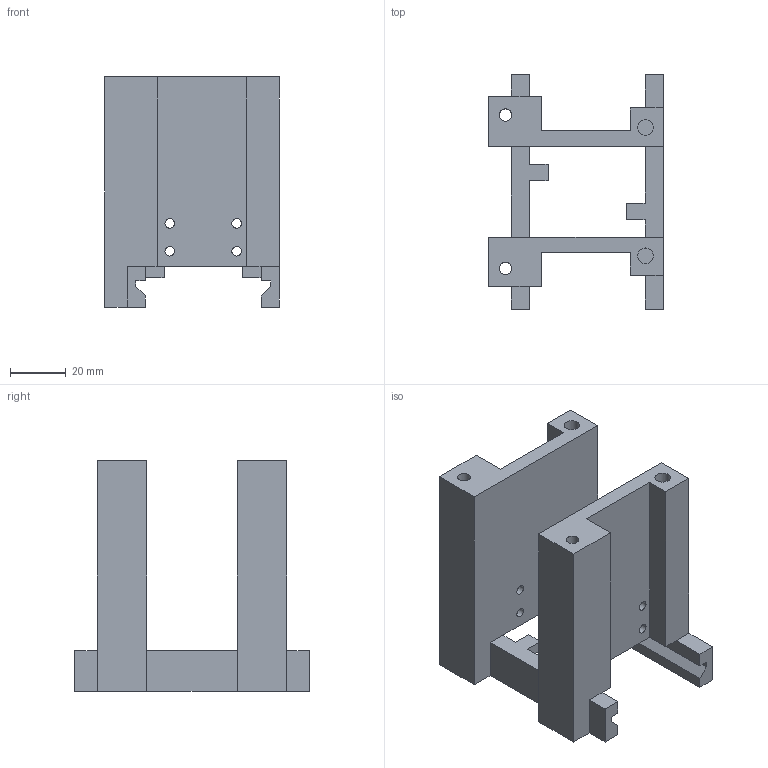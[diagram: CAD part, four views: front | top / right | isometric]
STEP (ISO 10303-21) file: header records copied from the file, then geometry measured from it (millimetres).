
FILE_DESCRIPTION(('Open CASCADE Model'),'2;1');
FILE_NAME('Open CASCADE Shape Model','2026-10-16T05:11:25',('Author'),( 'Open CASCADE'),'Open CASCADE STEP processor 7.9','Open CASCADE 7.9' ,'Unknown');
FILE_SCHEMA(('AUTOMOTIVE_DESIGN { 1 0 10303 214 1 1 1 1 }'));
Length unit declared in the file: millimetre
Products named in the file (1): Open CASCADE STEP translator 7.9 8
Bounding box: 62.5 x 84 x 82.5 mm (x, y, z)
Volume: 105113.2 mm3; surface area: 37916.5 mm2
Topology: 1 solids, 1 shells, 70 faces, 190 edges, 124 vertices
Faces by surface type: plane 56, cylinder 14
Full cylindrical faces by diameter (mm): 3.4 x8, 4.5 x2, 5.6 x2, 7.2 x2
Entity records: 4718 total; most frequent: CARTESIAN_POINT 965, DIRECTION 660, LINE 458, VECTOR 458, ORIENTED_EDGE 380, PCURVE 380, DEFINITIONAL_REPRESENTATION 380, EDGE_CURVE 190
